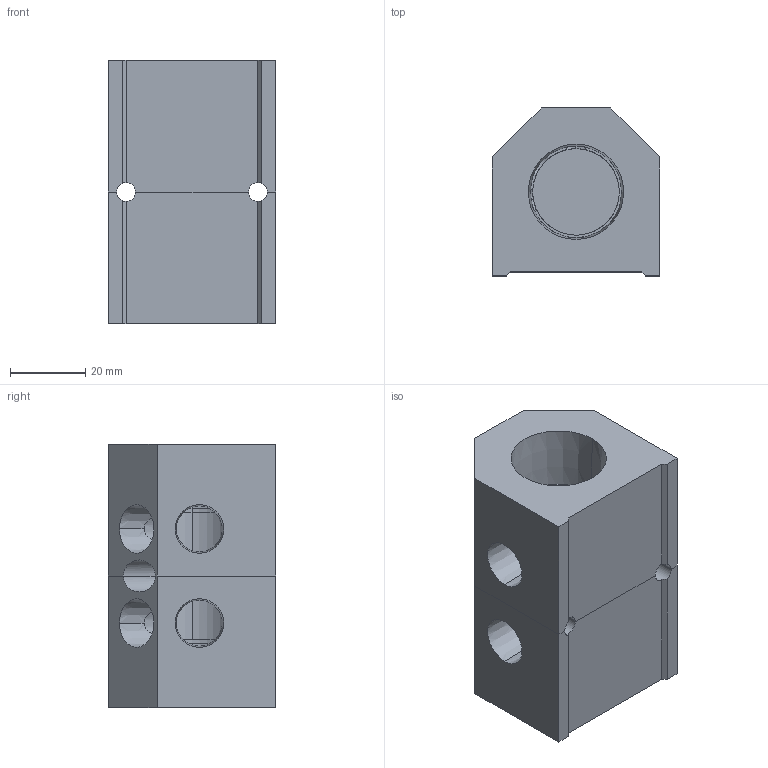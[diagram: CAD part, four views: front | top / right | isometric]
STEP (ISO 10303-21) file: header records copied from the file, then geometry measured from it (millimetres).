
FILE_DESCRIPTION (( 'STEP AP214' ), '1' );
FILE_NAME ('ALM2ABC-N4N12-70RB.step', '2022-02-06T14:18:28', ( '' ), ( '' ), 'SwSTEP 2.0', 'SolidWorks 2020', '' );
FILE_SCHEMA (( 'AUTOMOTIVE_DESIGN' ));
Length unit declared in the file: millimetre
Products named in the file (1): ALM2ABC-N4N12-70RB
Bounding box: 44.5 x 44.5 x 70 mm (x, y, z)
Volume: 83732.6 mm3; surface area: 25001.8 mm2
Topology: 2 solids, 2 shells, 349 faces, 944 edges, 628 vertices
Faces by surface type: plane 240, bspline 59, cylinder 27, cone 23
Entity records: 18526 total; most frequent: CARTESIAN_POINT 7001, ORIENTED_EDGE 1888, DIRECTION 1392, EDGE_CURVE 944, VECTOR 670, LINE 670, VERTEX_POINT 628, EDGE_LOOP 390
